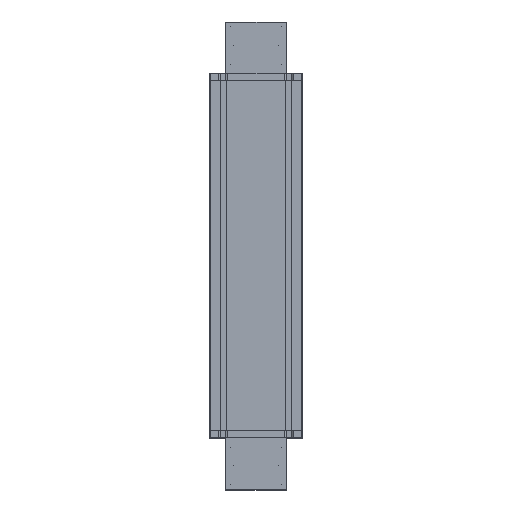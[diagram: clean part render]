
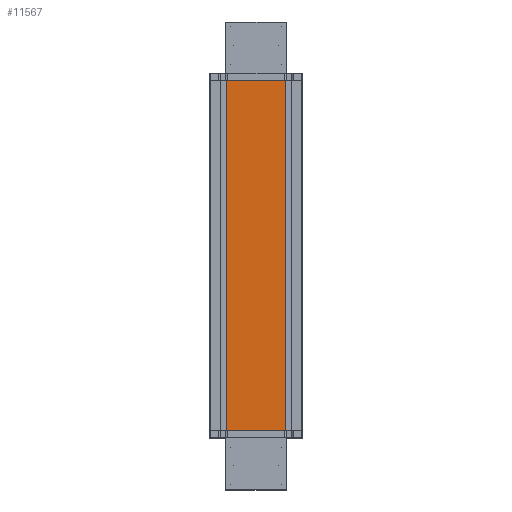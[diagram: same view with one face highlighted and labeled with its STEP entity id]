
A CAD part, top view. The second image highlights one B-rep face of the part: STEP entity #11567.
In plain terms, the highlighted planar face has unit normal (0, 0, 1) as drawn and (0, -1, 0) by its records, which use the part's own axes.
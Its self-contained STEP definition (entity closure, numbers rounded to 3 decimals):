
#1372 = CARTESIAN_POINT ( 'NONE',  ( 64., -50., 375. ) ) ;
#1599 = DIRECTION ( 'NONE',  ( 1., 0., 0. ) ) ;
#1610 = DIRECTION ( 'NONE',  ( 0., 1., 0. ) ) ;
#1854 = EDGE_LOOP ( 'NONE', ( #22620, #3096, #17809, #14173 ) ) ;
#2395 = EDGE_CURVE ( 'NONE', #19649, #15489, #6277, .T. ) ;
#3096 = ORIENTED_EDGE ( 'NONE', *, *, #11419, .F. ) ;
#3326 = LINE ( 'NONE', #22160, #19664 ) ;
#3411 = VERTEX_POINT ( 'NONE', #19832 ) ;
#5440 = PLANE ( 'NONE',  #20410 ) ;
#5949 = DIRECTION ( 'NONE',  ( 1., 0., 0. ) ) ;
#6277 = LINE ( 'NONE', #13069, #9869 ) ;
#6407 = DIRECTION ( 'NONE',  ( 0., 0., -1. ) ) ;
#6852 = CARTESIAN_POINT ( 'NONE',  ( -64., -50., 375. ) ) ;
#6864 = DIRECTION ( 'NONE',  ( -1., 0., 0. ) ) ;
#7613 = CARTESIAN_POINT ( 'NONE',  ( -64., -50., 375. ) ) ;
#9869 = VECTOR ( 'NONE', #5949, 1000. ) ;
#10310 = LINE ( 'NONE', #6852, #11140 ) ;
#10550 = VERTEX_POINT ( 'NONE', #7613 ) ;
#11140 = VECTOR ( 'NONE', #1599, 1000. ) ;
#11419 = EDGE_CURVE ( 'NONE', #3411, #15489, #16787, .T. ) ;
#11544 = EDGE_CURVE ( 'NONE', #10550, #19649, #3326, .T. ) ;
#11567 = ADVANCED_FACE ( 'NONE', ( #17345 ), #5440, .F. ) ;
#13069 = CARTESIAN_POINT ( 'NONE',  ( -64., -50., -375. ) ) ;
#13434 = DIRECTION ( 'NONE',  ( 0., 0., -1. ) ) ;
#14173 = ORIENTED_EDGE ( 'NONE', *, *, #11544, .T. ) ;
#15489 = VERTEX_POINT ( 'NONE', #19584 ) ;
#16787 = LINE ( 'NONE', #1372, #17836 ) ;
#17345 = FACE_OUTER_BOUND ( 'NONE', #1854, .T. ) ;
#17809 = ORIENTED_EDGE ( 'NONE', *, *, #20599, .F. ) ;
#17836 = VECTOR ( 'NONE', #6407, 1000. ) ;
#19584 = CARTESIAN_POINT ( 'NONE',  ( 64., -50., -375. ) ) ;
#19649 = VERTEX_POINT ( 'NONE', #21668 ) ;
#19664 = VECTOR ( 'NONE', #13434, 1000. ) ;
#19832 = CARTESIAN_POINT ( 'NONE',  ( 64., -50., 375. ) ) ;
#19932 = CARTESIAN_POINT ( 'NONE',  ( -64., -50., 375. ) ) ;
#20410 = AXIS2_PLACEMENT_3D ( 'NONE', #19932, #1610, #6864 ) ;
#20599 = EDGE_CURVE ( 'NONE', #10550, #3411, #10310, .T. ) ;
#21668 = CARTESIAN_POINT ( 'NONE',  ( -64., -50., -375. ) ) ;
#22160 = CARTESIAN_POINT ( 'NONE',  ( -64., -50., 375. ) ) ;
#22620 = ORIENTED_EDGE ( 'NONE', *, *, #2395, .T. ) ;
